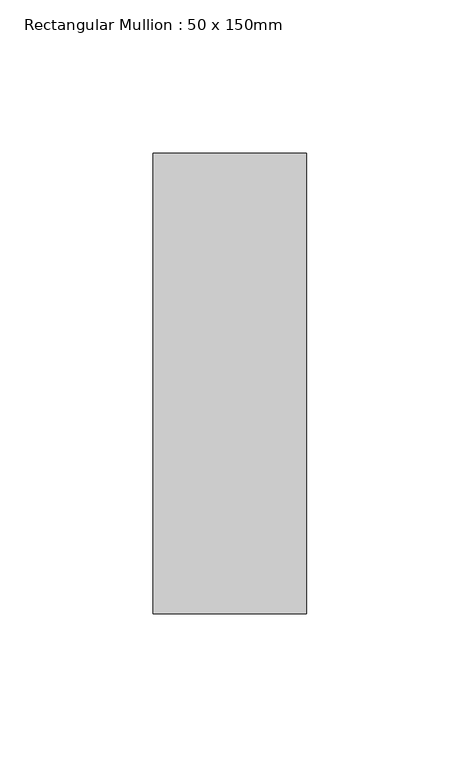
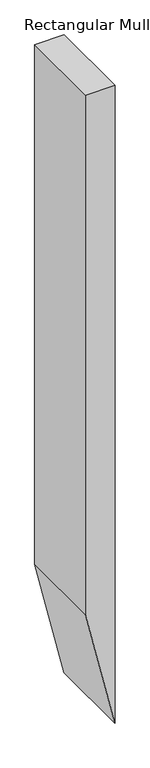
"""IFC4 building model written with IfcOpenShell, lengths in millimetres: member geometry, Rectangular Mullion : 50 x 150mm."""

import ifcopenshell
import ifcopenshell.guid

model = None  # the IFC model being written
_history = None  # IfcOwnerHistory: only IFC2X3 demands one
_inside = {}  # id of a spatial element -> (the spatial element, [elements in it])
_under = {}  # id of a project, library or spatial element -> (it, [spatial elements below it])
_declared = {}  # id of a project -> (the project, [libraries it declares])
_typed = {}  # id of a type object -> (the type object, [elements of that type])
_made_of = {}  # id of a material, layer set ... -> (it, [elements and type objects made of it])


def new_model(schema):
    """Start an empty IFC model of exactly this schema.

    Asked for "IFC4X3", IfcOpenShell would pick the latest addendum, in which some entities
    have other attributes; the version numbers below select the first issue.
    IFC2X3 requires an IfcOwnerHistory on every rooted entity: one is made here for all.
    """
    global model, _history
    if schema == "IFC4X3":
        model = ifcopenshell.file(schema_version=(4, 3, 0, 0))
    else:
        model = ifcopenshell.file(schema=schema)
    _inside.clear()
    _under.clear()
    _declared.clear()
    _typed.clear()
    _made_of.clear()
    _history = None
    if model.schema == "IFC2X3":
        org = make("IfcOrganization", Name="unknown")
        user = make(
            "IfcPersonAndOrganization",
            ThePerson=make("IfcPerson", FamilyName="unknown"),
            TheOrganization=org,
        )
        app = make(
            "IfcApplication",
            ApplicationDeveloper=org,
            Version="unknown",
            ApplicationFullName="unknown",
            ApplicationIdentifier="unknown",
        )
        _history = make(
            "IfcOwnerHistory",
            OwningUser=user,
            OwningApplication=app,
            ChangeAction="ADDED",
            CreationDate=0,
        )
    return model


def make(cls, **values):
    """One entity of the class cls with the attributes given. An attribute that is None is left unset."""
    return model.create_entity(
        cls, **{name: value for name, value in values.items() if value is not None}
    )


def rooted(cls, **values):
    """An entity with a GlobalId (a new one), such as an element, a storey or a relation."""
    return make(cls, GlobalId=ifcopenshell.guid.new(), OwnerHistory=_history, **values)


def si_unit(unit_type, name, prefix=None):
    """IfcSIUnit, for example si_unit("LENGTHUNIT", "METRE", prefix="MILLI")."""
    return make("IfcSIUnit", UnitType=unit_type, Prefix=prefix, Name=name)


def assignment(units):
    """IfcUnitAssignment: the units of a project."""
    return None if units is None else make("IfcUnitAssignment", Units=units)


def point(xyz):
    """IfcCartesianPoint."""
    return None if xyz is None else make("IfcCartesianPoint", Coordinates=xyz)


def direction(xyz):
    """IfcDirection."""
    return None if xyz is None else make("IfcDirection", DirectionRatios=xyz)


def frame(location, z_axis=None, x_axis=None):
    """IfcAxis2Placement3D, a coordinate frame: its origin and axes. An axis left out is left unset."""
    return make(
        "IfcAxis2Placement3D",
        Location=point(location),
        Axis=direction(z_axis),
        RefDirection=direction(x_axis),
    )


def origin():
    """The frame at (0, 0, 0) with its axes left unset."""
    return frame((0.0, 0.0, 0.0))


def place(relative_to, where):
    """IfcLocalPlacement: puts the frame where relative to a parent placement (None: the world)."""
    return make(
        "IfcLocalPlacement", PlacementRelTo=relative_to, RelativePlacement=where
    )


def context(
    kind, dimensions, precision=None, world=None, true_north=None, identifier=None
):
    """IfcGeometricRepresentationContext, for example the 3D "Model" context."""
    return make(
        "IfcGeometricRepresentationContext",
        ContextIdentifier=identifier,
        ContextType=kind,
        CoordinateSpaceDimension=dimensions,
        Precision=precision,
        WorldCoordinateSystem=world,
        TrueNorth=true_north,
    )


def project(units=None, contexts=None):
    """IfcProject with its units and contexts."""
    return rooted(
        "IfcProject",
        Name="project",
        RepresentationContexts=contexts,
        UnitsInContext=assignment(units),
    )


def spatial(cls, under=None, at=None, **own):
    """A site, building, storey or space (cls), placed at a placement, below another one or the project."""
    s = rooted(cls, ObjectPlacement=at, **own)
    if under is not None:
        _under.setdefault(under.id(), (under, []))[1].append(s)
    return s


def polyline(points):
    """IfcPolyline through the points."""
    return make("IfcPolyline", Points=[point(p) for p in points])


def outline(outer, holes=None, kind="AREA"):
    """IfcArbitraryClosedProfileDef: a profile drawn as a closed curve; with holes, ...WithVoids."""
    if holes is None:
        return make("IfcArbitraryClosedProfileDef", ProfileType=kind, OuterCurve=outer)
    return make(
        "IfcArbitraryProfileDefWithVoids",
        ProfileType=kind,
        OuterCurve=outer,
        InnerCurves=holes,
    )


def extrude(swept, where, along, depth):
    """IfcExtrudedAreaSolid: the profile swept, set in the frame where, extruded along a direction by depth."""
    return make(
        "IfcExtrudedAreaSolid",
        SweptArea=swept,
        Position=where,
        ExtrudedDirection=direction(along),
        Depth=depth,
    )


def shape(context_of_items, identifier, shape_type, items):
    """IfcShapeRepresentation: the items that make up one representation, for example the "Body"."""
    return make(
        "IfcShapeRepresentation",
        ContextOfItems=context_of_items,
        RepresentationIdentifier=identifier,
        RepresentationType=shape_type,
        Items=items,
    )


def source(mapping_origin, context_of_items, identifier, shape_type, items):
    """IfcRepresentationMap: a shape defined once, which mapped items show again and again."""
    return make(
        "IfcRepresentationMap",
        MappingOrigin=mapping_origin,
        MappedRepresentation=shape(context_of_items, identifier, shape_type, items),
    )


def transform(
    local_origin,
    x_axis=None,
    y_axis=None,
    z_axis=None,
    scale=None,
    scale2=None,
    scale3=None,
    uniform=True,
):
    """IfcCartesianTransformationOperator3D, or its non-uniform kind. x_axis, y_axis, z_axis: its Axis1, 2, 3."""
    if uniform:
        return make(
            "IfcCartesianTransformationOperator3D",
            Axis1=direction(x_axis),
            Axis2=direction(y_axis),
            LocalOrigin=point(local_origin),
            Scale=scale,
            Axis3=direction(z_axis),
        )
    return make(
        "IfcCartesianTransformationOperator3DnonUniform",
        Axis1=direction(x_axis),
        Axis2=direction(y_axis),
        LocalOrigin=point(local_origin),
        Scale=scale,
        Axis3=direction(z_axis),
        Scale2=scale2,
        Scale3=scale3,
    )


def mapped(mapping_source, mapping_target):
    """IfcMappedItem: shows the shape of a source again, moved by a transform."""
    return make(
        "IfcMappedItem", MappingSource=mapping_source, MappingTarget=mapping_target
    )


def made_of(thing, what):
    """Note that an element or type object is made of a material, layer set ...; save() writes the relation."""
    if what is not None:
        _made_of.setdefault(what.id(), (what, []))[1].append(thing)
    return thing


def element(
    cls,
    number,
    at=None,
    inside=None,
    cuts=None,
    type_object=None,
    material=None,
    context=None,
    identifier="Body",
    shape_type=None,
    held_by="IfcProductDefinitionShape",
    body=None,
    shapes=None,
    **own,
):
    """One element of the class cls, such as IfcWall. Its Tag is "e" and its number.

    at: its placement. inside: the storey or other place that contains it. cuts: it is an
    opening in that element (IfcRelVoidsElement). A single representation is given by context,
    identifier, shape_type and body (its items); several are given by shapes. held_by: the class
    of the entity that holds the representations. save() writes the other relations.
    """
    e = rooted(cls, Tag="e%d" % number, ObjectPlacement=at, **own)
    if body is not None:
        shapes = [shape(context, identifier, shape_type, body)]
    if shapes is not None:
        e.Representation = make(held_by, Representations=shapes)
    if inside is not None:
        _inside.setdefault(inside.id(), (inside, []))[1].append(e)
    if cuts is not None:
        rooted(
            "IfcRelVoidsElement", RelatingBuildingElement=cuts, RelatedOpeningElement=e
        )
    if type_object is not None:
        _typed.setdefault(type_object.id(), (type_object, []))[1].append(e)
    return made_of(e, material)


def aggregate(whole, parts):
    """IfcRelAggregates: a whole, such as a stair, and the parts it consists of."""
    return rooted("IfcRelAggregates", RelatingObject=whole, RelatedObjects=parts)


def save(model, path):
    """Write the relations noted so far, then the file.

    IfcRelAggregates (storeys below a building ...), IfcRelContainedInSpatialStructure (elements
    in a storey), IfcRelDefinesByType, IfcRelAssociatesMaterial and IfcRelDeclares: one each for
    every whole, place, type object, material and project.
    """
    for whole, parts in _under.values():
        aggregate(whole, parts)
    for where, things in _inside.values():
        rooted(
            "IfcRelContainedInSpatialStructure",
            RelatedElements=things,
            RelatingStructure=where,
        )
    for kind, things in _typed.values():
        rooted("IfcRelDefinesByType", RelatedObjects=things, RelatingType=kind)
    for what, things in _made_of.values():
        rooted("IfcRelAssociatesMaterial", RelatedObjects=things, RelatingMaterial=what)
    for by, libraries in _declared.values():
        rooted("IfcRelDeclares", RelatingContext=by, RelatedDefinitions=libraries)
    model.write(path)


def rectangular_mullion_50_x_150mm_5be59226(model_context):
    return source(origin(), model_context, "Body", "SweptSolid", [
        extrude(outline(polyline([(0.0, 25.0), (0.0, -25.0), (-935.548182, -25.0), (-1148.3773555, 25.0), (0.0, 25.0)])), frame((0.0, -75.0, 0.0), z_axis=(0.0, 1.0, 0.0), x_axis=(0.0, 0.0, 1.0)), (0.0, 0.0, 1.0), 150.0),
    ])


if __name__ == "__main__":
    model = new_model("IFC4")
    model_context = context("Model", 3, world=origin())
    ifc_project = project(units=[si_unit("LENGTHUNIT", "METRE", prefix="MILLI")], contexts=[model_context])
    site = spatial("IfcSite", under=ifc_project)
    building = spatial("IfcBuilding", under=site)
    placement = place(None, origin())
    rectangular_mullion_50_x_150mm_shape = rectangular_mullion_50_x_150mm_5be59226(model_context)
    element("IfcMember", 1, ObjectType="Rectangular Mullion : 50 x 150mm", at=placement, inside=building, context=model_context, shape_type="MappedRepresentation", body=[
        mapped(rectangular_mullion_50_x_150mm_shape, transform((0.0, 0.0, 0.0), x_axis=(1.0, 0.0, 0.0), y_axis=(0.0, 1.0, 0.0), z_axis=(0.0, 0.0, 1.0))),
    ])
    save(model, "model.ifc")
